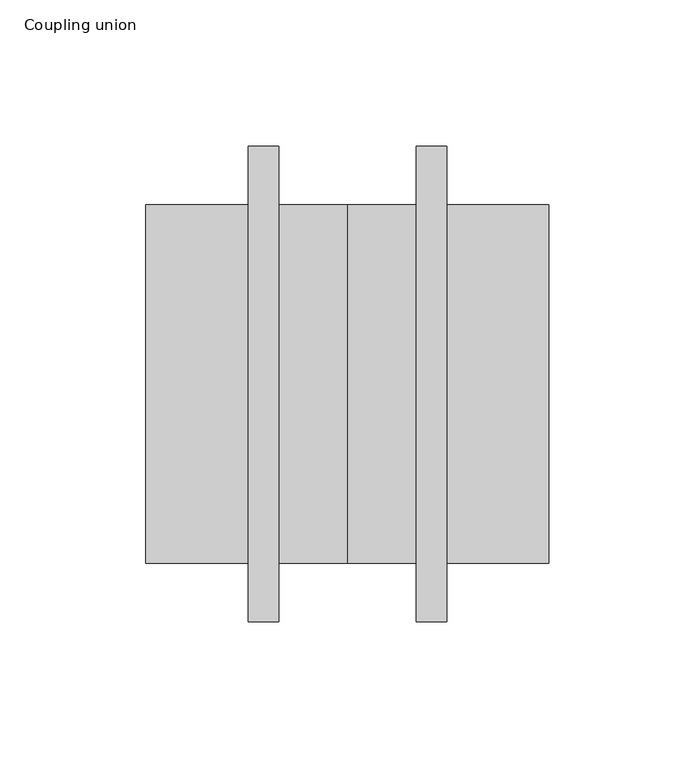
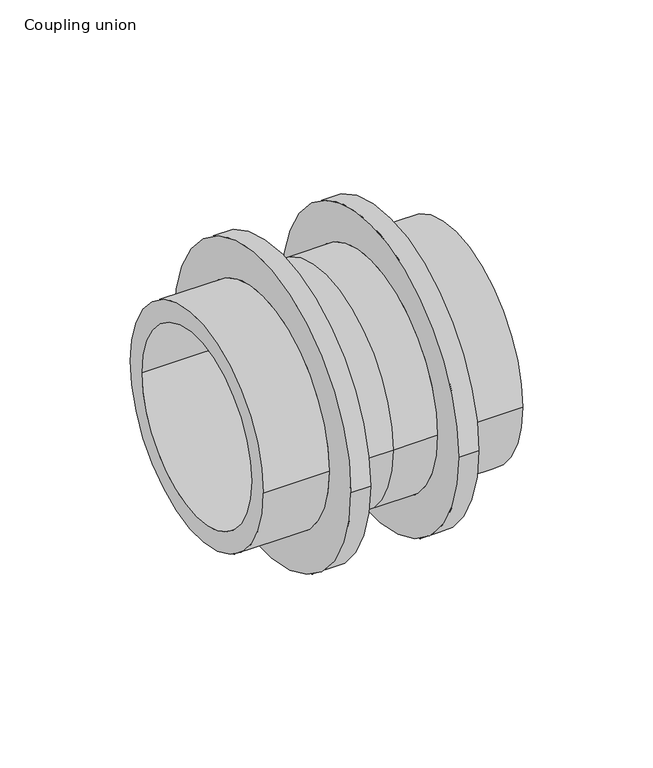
"""IFC4 building model written with IfcOpenShell, lengths in millimetres: pipe fitting geometry, Coupling union : C EQ SDR11 RX."""

from ifc_helpers import new_model, si_unit, frame, origin, place, context, project, spatial, polyline, circle_curve, source, transform, mapped, element, save
from ifc_brep_helpers import plane_surface, cylinder_surface, revolved_surface, advanced_brep


def coupling_union_d5728b00(model_context):
    return source(origin(), model_context, "Body", "AdvancedBrep", [
        advanced_brep(
        [(34.0, 81.5, 0.0), (34.0, -81.5, 0.0), (23.6, -81.5, 0.0), (23.6, 81.5, 0.0), (69.0, 61.4, 0.0), (69.0, -61.4, 0.0), (34.0, -61.4, 0.0), (34.0, 61.4, 0.0), (-69.0, 50.5, 0.0), (-69.0, -50.5, 0.0), (69.0, -50.5, 0.0), (69.0, 50.5, 0.0), (-34.0, 61.4, 0.0), (-34.0, -61.4, 0.0), (-69.0, -61.4, 0.0), (-69.0, 61.4, 0.0), (-23.6, 81.5, 0.0), (-23.6, -81.5, 0.0), (-34.0, -81.5, 0.0), (-34.0, 81.5, 0.0), (0.0, 61.4, 0.0), (0.0, -61.4, 0.0), (-23.6, -61.4, 0.0), (-23.6, 61.4, 0.0), (23.6, 61.4, 0.0), (23.6, -61.4, 0.0)],
        [
            (0, 1, circle_curve(frame((34.0, 0.0, 0.0), z_axis=(-1.0, 0.0, 0.0), x_axis=(0.0, -1.0, 0.0)), 81.5)),
            (1, 2),
            (2, 3, circle_curve(frame((23.6, 0.0, 0.0), z_axis=(1.0, 0.0, 0.0), x_axis=(0.0, -1.0, 0.0)), 81.5)),
            (3, 0),
            (4, 5, circle_curve(frame((69.0, 0.0, 0.0), z_axis=(-1.0, 0.0, 0.0), x_axis=(0.0, -1.0, 0.0)), 61.4)),
            (5, 6),
            (6, 7, circle_curve(frame((34.0, 0.0, 0.0), z_axis=(1.0, 0.0, 0.0), x_axis=(0.0, -1.0, 0.0)), 61.4)),
            (7, 4),
            (8, 9, circle_curve(frame((-69.0, 0.0, 0.0), z_axis=(-1.0, 0.0, 0.0), x_axis=(0.0, -1.0, 0.0)), 50.5)),
            (9, 10),
            (10, 11, circle_curve(frame((69.0, 0.0, 0.0), z_axis=(1.0, 0.0, 0.0), x_axis=(0.0, -1.0, 0.0)), 50.5)),
            (11, 8),
            (12, 13, circle_curve(frame((-34.0, 0.0, 0.0), z_axis=(-1.0, 0.0, 0.0), x_axis=(0.0, -1.0, 0.0)), 61.4)),
            (13, 14),
            (14, 15, circle_curve(frame((-69.0, 0.0, 0.0), z_axis=(1.0, 0.0, 0.0), x_axis=(0.0, -1.0, 0.0)), 61.4)),
            (15, 12),
            (16, 17, circle_curve(frame((-23.6, 0.0, 0.0), z_axis=(-1.0, 0.0, 0.0), x_axis=(0.0, -1.0, 0.0)), 81.5)),
            (17, 18),
            (18, 19, circle_curve(frame((-34.0, 0.0, 0.0), z_axis=(1.0, 0.0, 0.0), x_axis=(0.0, -1.0, 0.0)), 81.5)),
            (19, 16),
            (20, 21, circle_curve(frame((0.0, 0.0, 0.0), z_axis=(-1.0, 0.0, 0.0), x_axis=(0.0, -1.0, 0.0)), 61.4)),
            (21, 22),
            (22, 23, circle_curve(frame((-23.6, 0.0, 0.0), z_axis=(1.0, 0.0, 0.0), x_axis=(0.0, -1.0, 0.0)), 61.4)),
            (23, 20),
            (24, 25, circle_curve(frame((23.6, 0.0, 0.0), z_axis=(-1.0, 0.0, 0.0), x_axis=(0.0, -1.0, 0.0)), 61.4)),
            (25, 21),
            (20, 24),
            (1, 0, circle_curve(frame((34.0, 0.0, 0.0), z_axis=(-1.0, 0.0, 0.0), x_axis=(0.0, 1.0, 0.0)), 81.5)),
            (3, 2, circle_curve(frame((23.6, 0.0, 0.0), z_axis=(1.0, 0.0, 0.0), x_axis=(0.0, 1.0, 0.0)), 81.5)),
            (6, 7, circle_curve(frame((34.0, 0.0, 0.0), z_axis=(-1.0, 0.0, 0.0), x_axis=(0.0, 1.0, 0.0)), 61.4)),
            (5, 4, circle_curve(frame((69.0, 0.0, 0.0), z_axis=(-1.0, 0.0, 0.0), x_axis=(0.0, 1.0, 0.0)), 61.4)),
            (10, 11, circle_curve(frame((69.0, 0.0, 0.0), z_axis=(-1.0, 0.0, 0.0), x_axis=(0.0, 1.0, 0.0)), 50.5)),
            (9, 8, circle_curve(frame((-69.0, 0.0, 0.0), z_axis=(-1.0, 0.0, 0.0), x_axis=(0.0, 1.0, 0.0)), 50.5)),
            (14, 15, circle_curve(frame((-69.0, 0.0, 0.0), z_axis=(-1.0, 0.0, 0.0), x_axis=(0.0, 1.0, 0.0)), 61.4)),
            (13, 12, circle_curve(frame((-34.0, 0.0, 0.0), z_axis=(-1.0, 0.0, 0.0), x_axis=(0.0, 1.0, 0.0)), 61.4)),
            (18, 19, circle_curve(frame((-34.0, 0.0, 0.0), z_axis=(-1.0, 0.0, 0.0), x_axis=(0.0, 1.0, 0.0)), 81.5)),
            (17, 16, circle_curve(frame((-23.6, 0.0, 0.0), z_axis=(-1.0, 0.0, 0.0), x_axis=(0.0, 1.0, 0.0)), 81.5)),
            (22, 23, circle_curve(frame((-23.6, 0.0, 0.0), z_axis=(-1.0, 0.0, 0.0), x_axis=(0.0, 1.0, 0.0)), 61.4)),
            (21, 20, circle_curve(frame((0.0, 0.0, 0.0), z_axis=(-1.0, 0.0, 0.0), x_axis=(0.0, 1.0, 0.0)), 61.4)),
            (25, 24, circle_curve(frame((23.6, 0.0, 0.0), z_axis=(-1.0, 0.0, 0.0), x_axis=(0.0, 1.0, 0.0)), 61.4)),
        ],
        [
            cylinder_surface(frame((0.0, 0.0, 0.0), z_axis=(1.0, 0.0, 0.0), x_axis=(0.0, -1.0, 0.0)), 81.5),
            cylinder_surface(frame((0.0, 0.0, 0.0), z_axis=(1.0, 0.0, 0.0), x_axis=(0.0, -1.0, 0.0)), 61.4),
            revolved_surface(polyline([(69.0, -50.5, 0.0), (-69.0, -50.5, 0.0)]), (0.0, 0.0, 0.0), (1.0, 0.0, 0.0)),
            cylinder_surface(frame((0.0, 0.0, 0.0), z_axis=(1.0, 0.0, 0.0), x_axis=(0.0, 1.0, 0.0)), 81.5),
            plane_surface(frame((34.0, 0.0, 0.0), z_axis=(1.0, 0.0, 0.0), x_axis=(0.0, 1.0, 0.0))),
            cylinder_surface(frame((0.0, 0.0, 0.0), z_axis=(1.0, 0.0, 0.0), x_axis=(0.0, 1.0, 0.0)), 61.4),
            plane_surface(frame((69.0, 0.0, 0.0), z_axis=(1.0, 0.0, 0.0), x_axis=(0.0, 1.0, 0.0))),
            revolved_surface(polyline([(69.0, 50.5, 0.0), (-69.0, 50.5, 0.0)]), (0.0, 0.0, 0.0), (1.0, 0.0, 0.0)),
            plane_surface(frame((-69.0, 0.0, 0.0), z_axis=(-1.0, 0.0, 0.0), x_axis=(0.0, 1.0, 0.0))),
            plane_surface(frame((-34.0, 0.0, 0.0), z_axis=(-1.0, 0.0, 0.0), x_axis=(0.0, 1.0, 0.0))),
            plane_surface(frame((-23.6, 0.0, 0.0), z_axis=(1.0, 0.0, 0.0), x_axis=(0.0, 1.0, 0.0))),
            plane_surface(frame((23.6, 0.0, 0.0), z_axis=(-1.0, 0.0, 0.0), x_axis=(0.0, 1.0, 0.0))),
        ],
        [
            (0, [[1, 2, 3, 4]]),
            (1, [[5, 6, 7, 8]]),
            (2, [[9, 10, 11, 12]]),
            (1, [[13, 14, 15, 16]]),
            (0, [[17, 18, 19, 20]]),
            (1, [[21, 22, 23, 24]]),
            (1, [[25, 26, -21, 27]]),
            (3, [[28, -4, 29, -2]]),
            (4, [[-28, -1], [30, -7]]),
            (5, [[31, -8, -30, -6]]),
            (6, [[-31, -5], [32, -11]]),
            (7, [[33, -12, -32, -10]]),
            (8, [[34, -15], [-33, -9]]),
            (5, [[35, -16, -34, -14]]),
            (9, [[36, -19], [-35, -13]]),
            (3, [[37, -20, -36, -18]]),
            (10, [[-37, -17], [38, -23]]),
            (5, [[39, -24, -38, -22]]),
            (5, [[40, -27, -39, -26]]),
            (11, [[-29, -3], [-40, -25]]),
        ],
    ),
    ])


if __name__ == "__main__":
    model = new_model("IFC4")
    model_context = context("Model", 3, world=origin())
    ifc_project = project(units=[si_unit("LENGTHUNIT", "METRE", prefix="MILLI")], contexts=[model_context])
    site = spatial("IfcSite", under=ifc_project)
    building = spatial("IfcBuilding", under=site)
    placement = place(None, origin())
    coupling_union_shape = coupling_union_d5728b00(model_context)
    element("IfcPipeFitting", 1, ObjectType="Coupling union : C EQ SDR11 RX", at=placement, inside=building, context=model_context, shape_type="MappedRepresentation", body=[
        mapped(coupling_union_shape, transform((0.0, 0.0, 0.0), x_axis=(1.0, 0.0, 0.0), y_axis=(0.0, 1.0, 0.0), z_axis=(0.0, 0.0, 1.0))),
    ])
    save(model, "model.ifc")
